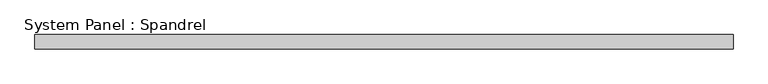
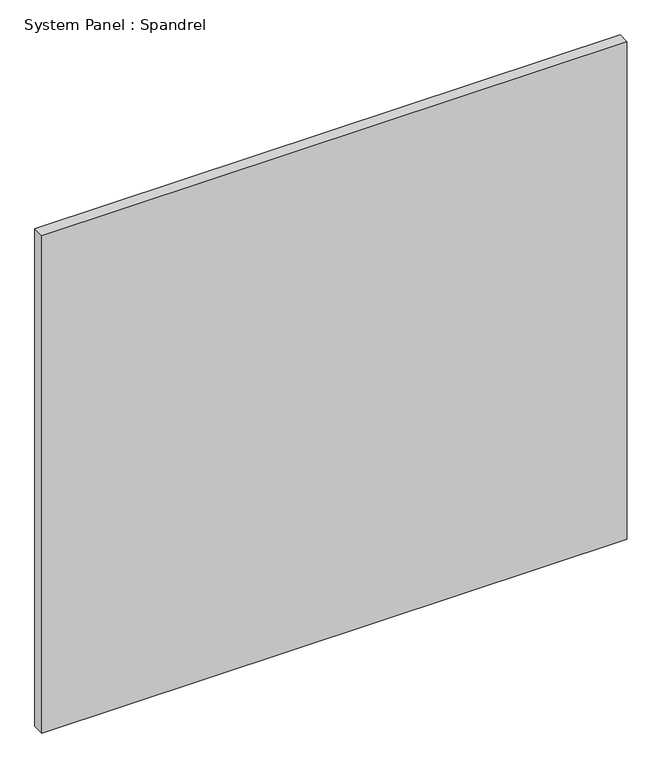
"""IFC4 building model written with IfcOpenShell, lengths in millimetres: plate geometry, System Panel : Spandrel."""

from ifc_helpers import new_model, si_unit, origin, origin_with_axes, place, context, project, spatial, polyline, outline, extrude, source, transform, mapped, element, save


def system_panel_spandrel_e6a43368(model_context):
    return source(origin(), model_context, "Body", "SweptSolid", [
        extrude(outline(polyline([(612.5000001, 0.0), (-612.5000001, 0.0), (-612.5000001, 25.0), (612.5000001, 25.0), (612.5000001, 0.0)])), origin_with_axes(), (0.0, 0.0, 1.0), 1100.0),
    ])


if __name__ == "__main__":
    model = new_model("IFC4")
    model_context = context("Model", 3, world=origin())
    ifc_project = project(units=[si_unit("LENGTHUNIT", "METRE", prefix="MILLI")], contexts=[model_context])
    site = spatial("IfcSite", under=ifc_project)
    building = spatial("IfcBuilding", under=site)
    placement = place(None, origin())
    system_panel_spandrel_shape = system_panel_spandrel_e6a43368(model_context)
    element("IfcPlate", 1, ObjectType="System Panel : Spandrel", at=placement, inside=building, context=model_context, shape_type="MappedRepresentation", body=[
        mapped(system_panel_spandrel_shape, transform((0.0, 0.0, 0.0), x_axis=(1.0, 0.0, 0.0), y_axis=(0.0, 1.0, 0.0), z_axis=(0.0, 0.0, 1.0))),
    ])
    save(model, "model.ifc")
